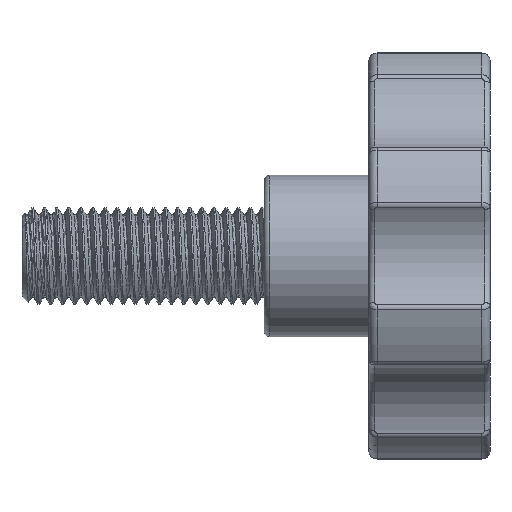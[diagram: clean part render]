
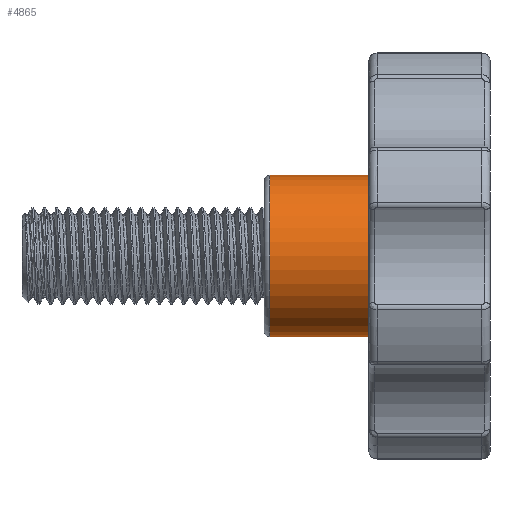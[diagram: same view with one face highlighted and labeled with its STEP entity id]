
A CAD part, left-side view. The second image highlights one B-rep face of the part: STEP entity #4865.
In plain terms, the highlighted cylindrical face has radius 10 mm (diameter 20 mm), a partial arc.
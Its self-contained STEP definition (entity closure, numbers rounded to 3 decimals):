
#387 = DIRECTION ( 'NONE',  ( 0., 1., 0. ) ) ;
#673 = AXIS2_PLACEMENT_3D ( 'NONE', #5808, #387, #6723 ) ;
#689 = EDGE_CURVE ( 'NONE', #9783, #1739, #8863, .T. ) ;
#932 = LINE ( 'NONE', #9569, #10296 ) ;
#1018 = CIRCLE ( 'NONE', #673, 10. ) ;
#1737 = CARTESIAN_POINT ( 'NONE',  ( 0., 27.3, 10. ) ) ;
#1739 = VERTEX_POINT ( 'NONE', #2645 ) ;
#2645 = CARTESIAN_POINT ( 'NONE',  ( 0., 27.3, -10. ) ) ;
#2912 = CYLINDRICAL_SURFACE ( 'NONE', #11029, 10. ) ;
#3472 = FACE_OUTER_BOUND ( 'NONE', #7676, .T. ) ;
#3884 = ORIENTED_EDGE ( 'NONE', *, *, #689, .T. ) ;
#4053 = ORIENTED_EDGE ( 'NONE', *, *, #5483, .F. ) ;
#4114 = DIRECTION ( 'NONE',  ( 0., -1., 0. ) ) ;
#4599 = DIRECTION ( 'NONE',  ( 0., -1., 0. ) ) ;
#4824 = DIRECTION ( 'NONE',  ( 0., 0., -1. ) ) ;
#4865 = ADVANCED_FACE ( 'NONE', ( #3472 ), #2912, .T. ) ;
#5388 = CARTESIAN_POINT ( 'NONE',  ( 0., 3.7, 10. ) ) ;
#5483 = EDGE_CURVE ( 'NONE', #9783, #5900, #932, .T. ) ;
#5627 = ORIENTED_EDGE ( 'NONE', *, *, #10728, .T. ) ;
#5808 = CARTESIAN_POINT ( 'NONE',  ( 0., 3.7, 0. ) ) ;
#5900 = VERTEX_POINT ( 'NONE', #5388 ) ;
#6097 = CARTESIAN_POINT ( 'NONE',  ( 0., 0., -10. ) ) ;
#6607 = AXIS2_PLACEMENT_3D ( 'NONE', #10053, #4599, #10958 ) ;
#6610 = DIRECTION ( 'NONE',  ( 0., -1., 0. ) ) ;
#6723 = DIRECTION ( 'NONE',  ( 0., 0., -1. ) ) ;
#7009 = DIRECTION ( 'NONE',  ( 0., -1., 0. ) ) ;
#7027 = ORIENTED_EDGE ( 'NONE', *, *, #8864, .T. ) ;
#7676 = EDGE_LOOP ( 'NONE', ( #4053, #3884, #7027, #5627 ) ) ;
#8502 = VECTOR ( 'NONE', #7009, 1000. ) ;
#8589 = CARTESIAN_POINT ( 'NONE',  ( 0., 3.7, -10. ) ) ;
#8863 = CIRCLE ( 'NONE', #6607, 10. ) ;
#8864 = EDGE_CURVE ( 'NONE', #1739, #9528, #10921, .T. ) ;
#9528 = VERTEX_POINT ( 'NONE', #8589 ) ;
#9569 = CARTESIAN_POINT ( 'NONE',  ( 0., 0., 10. ) ) ;
#9783 = VERTEX_POINT ( 'NONE', #1737 ) ;
#10053 = CARTESIAN_POINT ( 'NONE',  ( 0., 27.3, 0. ) ) ;
#10277 = CARTESIAN_POINT ( 'NONE',  ( 0., 0., 0. ) ) ;
#10296 = VECTOR ( 'NONE', #4114, 1000. ) ;
#10728 = EDGE_CURVE ( 'NONE', #9528, #5900, #1018, .T. ) ;
#10921 = LINE ( 'NONE', #6097, #8502 ) ;
#10958 = DIRECTION ( 'NONE',  ( 0., 0., -1. ) ) ;
#11029 = AXIS2_PLACEMENT_3D ( 'NONE', #10277, #6610, #4824 ) ;
